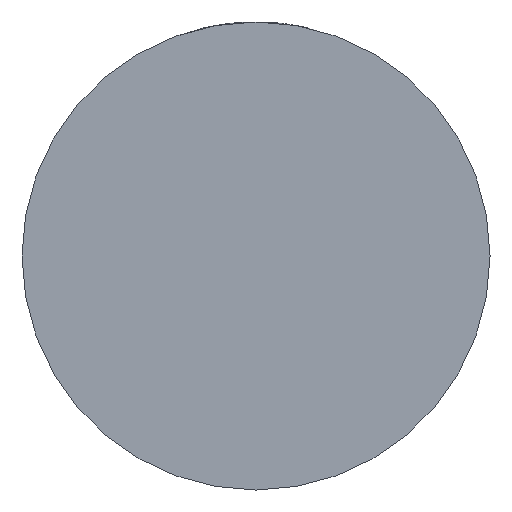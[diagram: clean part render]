
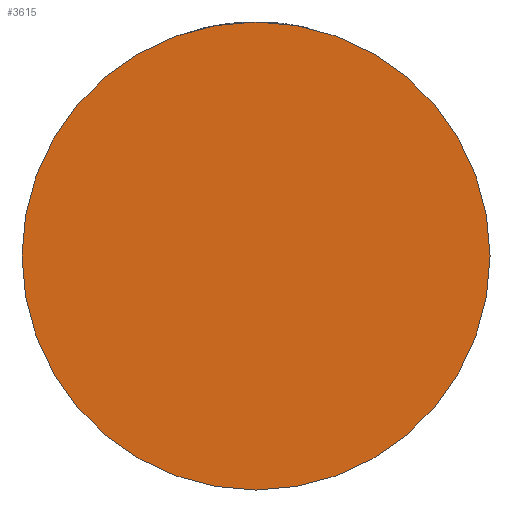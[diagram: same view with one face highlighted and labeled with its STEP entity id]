
A CAD part, front view. The second image highlights one B-rep face of the part: STEP entity #3615.
In plain terms, the highlighted planar face has unit normal (0, -1, 0).
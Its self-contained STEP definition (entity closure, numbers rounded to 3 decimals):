
#39 = CARTESIAN_POINT ( 'NONE',  ( -40., -28., 0. ) ) ;
#530 = DIRECTION ( 'NONE',  ( 0., -1., 0. ) ) ;
#965 = EDGE_CURVE ( 'NONE', #2292, #2092, #4195, .T. ) ;
#1349 = CARTESIAN_POINT ( 'NONE',  ( 0., -28., 0. ) ) ;
#1412 = CARTESIAN_POINT ( 'NONE',  ( 40., -28., 0. ) ) ;
#1695 = DIRECTION ( 'NONE',  ( 1., 0., 0. ) ) ;
#1722 = DIRECTION ( 'NONE',  ( 1., 0., 0. ) ) ;
#1799 = AXIS2_PLACEMENT_3D ( 'NONE', #1349, #3051, #2710 ) ;
#2055 = EDGE_LOOP ( 'NONE', ( #3454, #2373 ) ) ;
#2081 = FACE_OUTER_BOUND ( 'NONE', #2055, .T. ) ;
#2092 = VERTEX_POINT ( 'NONE', #39 ) ;
#2254 = AXIS2_PLACEMENT_3D ( 'NONE', #3382, #530, #1695 ) ;
#2292 = VERTEX_POINT ( 'NONE', #1412 ) ;
#2373 = ORIENTED_EDGE ( 'NONE', *, *, #965, .T. ) ;
#2710 = DIRECTION ( 'NONE',  ( 1., 0., 0. ) ) ;
#3051 = DIRECTION ( 'NONE',  ( 0., -1., 0. ) ) ;
#3091 = CIRCLE ( 'NONE', #1799, 40. ) ;
#3382 = CARTESIAN_POINT ( 'NONE',  ( 0., -28., 0. ) ) ;
#3454 = ORIENTED_EDGE ( 'NONE', *, *, #3534, .T. ) ;
#3457 = CARTESIAN_POINT ( 'NONE',  ( 0., -28., 0. ) ) ;
#3534 = EDGE_CURVE ( 'NONE', #2092, #2292, #3091, .T. ) ;
#3615 = ADVANCED_FACE ( 'NONE', ( #2081 ), #3913, .T. ) ;
#3662 = AXIS2_PLACEMENT_3D ( 'NONE', #3457, #3889, #1722 ) ;
#3889 = DIRECTION ( 'NONE',  ( 0., -1., 0. ) ) ;
#3913 = PLANE ( 'NONE',  #3662 ) ;
#4195 = CIRCLE ( 'NONE', #2254, 40. ) ;
